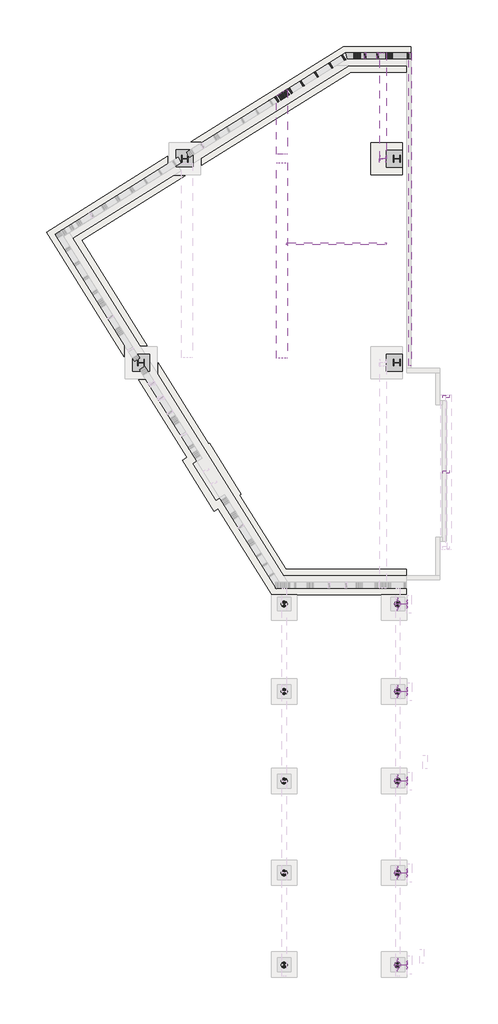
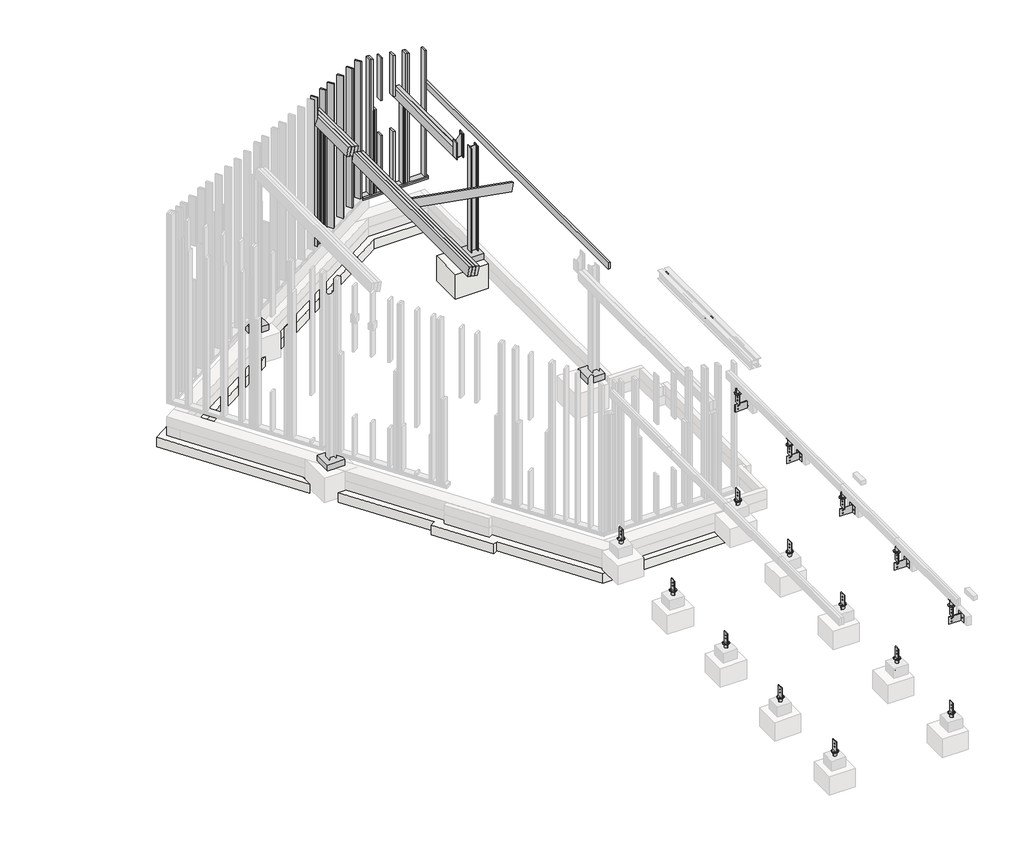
# One storey, part 4 of 4: 31 columns, 20 proxies, 9 beams, 5 fasteners, 2 slabs.
"""IFC4 building model written with IfcOpenShell, lengths in millimetres."""

from ifc_helpers import new_model, si_unit, point, frame, frame_2d, origin, place, context, project, spatial, polyline, circle_curve, ellipse_curve, trimmed, segment, composite_curve, outline, extrude, faceted_brep, transform, mapped, element, save
from ifc_brep_helpers import plane_surface, revolved_surface, advanced_brep
from components import beam_38x140_8ceb008d, beam_50x150_62dd1690, beam_50x225_d8450399, chs_circular_hollow_sections_chs60_3x3_2_165b7c51, canopy_column_connection_fin_plate_canopy_column_connection_61bcdf36, canopy_column_foot_canopy_column_foot_2fd377a7, canopy_column_head_connection_canopy_column_head_connection_66bd8aa7, canopy_column_head_connection_canopy_column_head_connection_2c35da79, column_57cc7a02, column_027ce092, column_138edc97, column_52efbaac, ukc152x152x37_75c2c72e, column_base_plate_4_hole_ed_15mm_62b327aa, m_anchor_rod_with_anchor_plate_m_anchor_rod_with_anchor_bff3a3cc, slab_600_wide_x_225_thick_600_wide_x_225_thick_d5cd6888

model = new_model("IFC4")

# Units and contexts
model_context = context("Model", 3, world=origin())
ifc_project = project(units=[si_unit("LENGTHUNIT", "METRE", prefix="MILLI")], contexts=[model_context])

# Site, building, storey
site = spatial("IfcSite", under=ifc_project)
building = spatial("IfcBuilding", under=site)
storey = spatial("IfcBuildingStorey", under=building, Name="Ground Floor Plan Showing Foundations", Elevation=-93.0)

# Beams
placement = place(None, origin())
element("IfcBeam", 1, ObjectType="Graded Timber - 2No : 2 x 75x225", at=placement, inside=storey, context=model_context, shape_type="SweptSolid", body=[
    extrude(outline(polyline([(-29366.9371106, 15857.9564696), (-29441.9371106, 15857.9564696), (-29441.9371106, 18347.3350736), (-29366.9371106, 18347.3350736), (-29366.9371106, 15857.9564696)])), frame((0.0, 0.0, 2427.0), z_axis=(0.0, 0.0, 1.0), x_axis=(1.0, 0.0, 0.0)), (0.0, 0.0, 1.0), 220.0),
    extrude(outline(polyline([(-29441.9371106, 15857.9564696), (-29516.9371106, 15857.9564696), (-29516.9371106, 18347.3350736), (-29441.9371106, 18347.3350736), (-29441.9371106, 15857.9564696)])), frame((0.0, 0.0, 2427.0), z_axis=(0.0, 0.0, 1.0), x_axis=(1.0, 0.0, 0.0)), (0.0, 0.0, 1.0), 220.0),
])
element("IfcBeam", 2, ObjectType="Graded Timber - 3No : 3 x 75x225", at=placement, inside=storey, context=model_context, shape_type="Brep", body=[
    faceted_brep([(-31761.2878822, 15964.4230908, 3439.3250767), (-31835.1484637, 15964.4230908, 3452.34869), (-31873.3510628, 15964.4230908, 3235.6909843), (-31799.4904813, 15964.4230908, 3222.667371), (-31761.2878822, 17453.1494248, 3439.3250767), (-31835.1484637, 17406.9962111, 3452.34869), (-31873.3510628, 17383.1245778, 3235.6909843), (-31799.4904813, 17429.2777915, 3222.667371)], [[[0, 1, 2, 3]], [[1, 0, 4, 5]], [[2, 1, 5, 6]], [[3, 2, 6, 7]], [[0, 3, 7, 4]], [[5, 4, 7, 6]]]),
    faceted_brep([(-31721.2674157, 17478.1569878, 3432.2683887), (-31721.2674157, 17478.1569878, 3234.3846346), (-31725.6298999, 17475.4310052, 3209.6437577), (-31799.4904813, 17429.2777915, 3222.667371), (-31761.2878822, 17453.1494248, 3439.3250767), (-31687.4273008, 15964.4230908, 3426.3014634), (-31761.2878822, 15964.4230908, 3439.3250767), (-31799.4904813, 15964.4230908, 3222.667371), (-31725.6298999, 15964.4230908, 3209.6437577), (-31687.4273008, 17478.1569878, 3426.3014634)], [[[0, 1, 2, 3, 4]], [[5, 6, 7, 8]], [[6, 5, 9, 0, 4]], [[7, 6, 4, 3]], [[8, 7, 3, 2]], [[5, 8, 2, 1, 9]], [[9, 1, 0]]]),
    faceted_brep([(-31909.0090452, 17360.8429974, 3465.3723033), (-31835.1484637, 17406.9962111, 3452.34869), (-31873.3510628, 17383.1245778, 3235.6909843), (-31947.2116443, 17336.971364, 3248.7145977), (-31835.1484637, 15964.4230908, 3452.34869), (-31909.0090452, 15964.4230908, 3465.3723033), (-31947.2116443, 15964.4230908, 3248.7145977), (-31873.3510628, 15964.4230908, 3235.6909843)], [[[0, 1, 2, 3]], [[4, 5, 6, 7]], [[5, 4, 1, 0]], [[6, 5, 0, 3]], [[7, 6, 3, 2]], [[4, 7, 2, 1]]]),
])
element("IfcBeam", 3, ObjectType="Graded Timber - 3No : 3 x 75x225", at=placement, inside=storey, context=model_context, shape_type="SweptSolid", body=[
    extrude(outline(polyline([(37.5, -1e-07), (-37.5, 0.0), (-37.5, 4599.1047755), (37.5, 4599.1047755), (37.5, -1e-07)])), frame((-31836.423552, 11155.3175759, 3229.1796649), z_axis=(0.17364817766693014, 3.480266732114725e-06, 0.9848077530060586), x_axis=(0.9848077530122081, -6.136649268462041e-07, -0.1736481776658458)), (0.0, 0.0, 1.0), 220.0),
    extrude(outline(polyline([(37.5, 0.0), (-37.5000001, 0.0), (-37.5000001, 4599.1047756), (37.5, 4599.1047755), (37.5, 0.0)])), frame((-31762.5629705, 11155.3175298, 3216.1560516), z_axis=(0.17364817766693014, 3.480266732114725e-06, 0.9848077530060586), x_axis=(0.9848077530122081, -6.136649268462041e-07, -0.1736481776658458)), (0.0, 0.0, 1.0), 220.0),
    extrude(outline(polyline([(37.5000001, 0.0), (-37.5, 0.0), (-37.5, 4599.1047755), (37.5, 4599.1047755), (37.5000001, 0.0)])), frame((-31910.2841335, 11155.3176219, 3242.2032782), z_axis=(0.17364817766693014, 3.480266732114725e-06, 0.9848077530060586), x_axis=(0.9848077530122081, -6.136649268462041e-07, -0.1736481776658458)), (0.0, 0.0, 1.0), 220.0),
])
element("IfcBeam", 4, ObjectType="Graded Timber : 38x140", at=placement, inside=storey, context=model_context, shape_type="Brep", body=[
    faceted_brep([(-28782.1889154, 18207.3350736, 280.0), (-28782.1889154, 18347.3350736, 280.0), (-28782.1889154, 18347.3350736, 318.0), (-28782.1889154, 18207.3350736, 318.0), (-30330.295994, 18347.3350736, 280.0), (-30290.1460992, 18207.3350736, 280.0), (-30330.295994, 18347.3350736, 318.0), (-30290.1460992, 18207.3350736, 318.0)], [[[0, 1, 2, 3]], [[4, 1, 0, 5]], [[6, 2, 1, 4]], [[7, 3, 2, 6]], [[5, 0, 3, 7]], [[5, 7, 6, 4]]]),
])
beam_38x140_shape = beam_38x140_8ceb008d(model_context)
element("IfcBeam", 5, ObjectType="Graded Timber : 38x140", at=placement, inside=storey, context=model_context, shape_type="MappedRepresentation", body=[
    mapped(beam_38x140_shape, transform((-29602.0921398, 18277.3350736, 261.0), x_axis=(-1.0000000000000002, 0.0, 0.0), y_axis=(0.0, 0.0, -1.0000000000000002), z_axis=(0.0, -1.0000000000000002, 0.0))),
])
beam_50x150_shape = beam_50x150_62dd1690(model_context)
element("IfcBeam", 6, ObjectType="Graded Timber : 50x150", at=placement, inside=storey, context=model_context, shape_type="MappedRepresentation", body=[
    mapped(beam_50x150_shape, transform((-28801.9371106, 13453.6021184, 2527.4), x_axis=(0.0, -1.0, 0.0), y_axis=(1.0, 0.0, 0.0), z_axis=(0.0, 0.0, 1.0))),
])
beam_50x225_shape = beam_50x225_d8450399(model_context)
element("IfcBeam", 7, ObjectType="Graded Timber : 50x225", at=placement, inside=storey, context=model_context, shape_type="MappedRepresentation", body=[
    mapped(beam_50x225_shape, transform((-30538.8351923, 13852.6972445, 3111.8205774), x_axis=(0.9848129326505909, 0.0, -0.17361879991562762), y_axis=(0.0, 1.0, 0.0), z_axis=(0.17361879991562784, 0.0, 0.9848129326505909))),
])
chs_circular_hollow_sections_chs60_3x3_2_shape = chs_circular_hollow_sections_chs60_3x3_2_165b7c51(model_context)
element("IfcBeam", 8, ObjectType="CHS-Circular Hollow Sections : CHS60.3x3.2", at=placement, inside=storey, context=model_context, shape_type="MappedRepresentation", body=[
    mapped(chs_circular_hollow_sections_chs60_3x3_2_shape, transform((-27953.1871107, 8474.5605669, 2470.0), x_axis=(-1.0, 0.0, 0.0), y_axis=(0.0, -1.0, 0.0), z_axis=(0.0, 0.0, 1.0))),
])
element("IfcBeam", 9, ObjectType="CHS-Circular Hollow Sections : CHS60.3x3.2", at=placement, inside=storey, context=model_context, shape_type="MappedRepresentation", body=[
    mapped(chs_circular_hollow_sections_chs60_3x3_2_shape, transform((-27953.1871107, 10254.5605669, 2470.0), x_axis=(-1.0, 0.0, 0.0), y_axis=(0.0, -1.0, 0.0), z_axis=(0.0, 0.0, 1.0))),
])

# Proxies
element("IfcBuildingElementProxy", 10, Name="Canopy Column Connection Fin Plate : Canopy Column Connection Fin Plate", ObjectType="Canopy Column Connection Fin Plate : Canopy Column Connection Fin Plate", at=placement, inside=storey, context=model_context, shape_type="SweptSolid", body=[
    extrude(outline(polyline([(-3029.6238045, 2682.0), (-3029.6238045, 2507.0), (-3229.6238045, 2507.0), (-3229.6238045, 2682.0), (-3029.6238045, 2682.0)]), holes=[composite_curve([segment(trimmed(circle_curve(frame_2d((-3079.6238045, 2594.5)), 8.9998703), [point((-3079.6238045, 2585.5001297))], [point((-3079.6238045, 2603.4998703))], True, "CARTESIAN"), True, "CONTINUOUS"), segment(trimmed(circle_curve(frame_2d((-3079.6238045, 2594.5)), 8.9998703), [point((-3079.6238045, 2603.4998703))], [point((-3079.6238045, 2585.5001297))], True, "CARTESIAN"), True, "CONTINUOUS")], self_intersect=False), composite_curve([segment(trimmed(circle_curve(frame_2d((-3179.6238045, 2594.5)), 8.9998703), [point((-3179.6238045, 2585.5001297))], [point((-3179.6238045, 2603.4998703))], True, "CARTESIAN"), True, "CONTINUOUS"), segment(trimmed(circle_curve(frame_2d((-3179.6238045, 2594.5)), 8.9998703), [point((-3179.6238045, 2603.4998703))], [point((-3179.6238045, 2585.5001297))], True, "CARTESIAN"), True, "CONTINUOUS")], self_intersect=False)]), frame((-28872.9341292, 0.0, 0.0), z_axis=(1.0, 0.0, 0.0), x_axis=(0.0, 1.0, 0.0)), (0.0, 0.0, 1.0), 10.0),
    extrude(outline(polyline([(2507.0, -28872.9341292), (2682.0, -28872.9341292), (2682.0, -29156.9341292), (2507.0, -29156.9341292), (2507.0, -28872.9341292)]), holes=[composite_curve([segment(trimmed(circle_curve(frame_2d((2632.0, -29091.9341292)), 8.9998703), [point((2623.0001297, -29091.9341292))], [point((2640.9998703, -29091.9341292))], True, "CARTESIAN"), True, "CONTINUOUS"), segment(trimmed(circle_curve(frame_2d((2632.0, -29091.9341292)), 8.9998703), [point((2640.9998703, -29091.9341292))], [point((2623.0001297, -29091.9341292))], True, "CARTESIAN"), True, "CONTINUOUS")], self_intersect=False), composite_curve([segment(trimmed(circle_curve(frame_2d((2557.0, -29091.9341292)), 8.9998703), [point((2548.0001297, -29091.9341292))], [point((2565.9998703, -29091.9341292))], True, "CARTESIAN"), True, "CONTINUOUS"), segment(trimmed(circle_curve(frame_2d((2557.0, -29091.9341292)), 8.9998703), [point((2565.9998703, -29091.9341292))], [point((2548.0001297, -29091.9341292))], True, "CARTESIAN"), True, "CONTINUOUS")], self_intersect=False)]), frame((0.0, -3135.6238045, 0.0), z_axis=(0.0, 1.0, 0.0), x_axis=(0.0, 0.0, 1.0)), (0.0, 0.0, 1.0), 12.0),
])
canopy_column_connection_fin_plate_canopy_column_connection_shape = canopy_column_connection_fin_plate_canopy_column_connection_61bcdf36(model_context)
element("IfcBuildingElementProxy", 11, Name="Canopy Column Connection Fin Plate : Canopy Column Connection Fin Plate", ObjectType="Canopy Column Connection Fin Plate : Canopy Column Connection Fin Plate", at=placement, inside=storey, context=model_context, shape_type="MappedRepresentation", body=[
    mapped(canopy_column_connection_fin_plate_canopy_column_connection_shape, transform((-29007.1341292, -963.6740127, 2507.0), x_axis=(0.0, -1.0, 0.0), y_axis=(1.0, 0.0, 0.0), z_axis=(0.0, 0.0, 1.0))),
])
element("IfcBuildingElementProxy", 12, Name="Canopy Column Connection Fin Plate : Canopy Column Connection Fin Plate", ObjectType="Canopy Column Connection Fin Plate : Canopy Column Connection Fin Plate", at=placement, inside=storey, context=model_context, shape_type="MappedRepresentation", body=[
    mapped(canopy_column_connection_fin_plate_canopy_column_connection_shape, transform((-29007.1341292, 1196.80418, 2507.0), x_axis=(0.0, -1.0, 0.0), y_axis=(1.0, 0.0, 0.0), z_axis=(0.0, 0.0, 1.0))),
])
element("IfcBuildingElementProxy", 13, Name="Canopy Column Connection Fin Plate : Canopy Column Connection Fin Plate", ObjectType="Canopy Column Connection Fin Plate : Canopy Column Connection Fin Plate", at=placement, inside=storey, context=model_context, shape_type="MappedRepresentation", body=[
    mapped(canopy_column_connection_fin_plate_canopy_column_connection_shape, transform((-29007.1341292, 3304.2368568, 2507.0), x_axis=(0.0, -1.0, 0.0), y_axis=(1.0, 0.0, 0.0), z_axis=(0.0, 0.0, 1.0))),
])
element("IfcBuildingElementProxy", 14, Name="Canopy Column Connection Fin Plate : Canopy Column Connection Fin Plate", ObjectType="Canopy Column Connection Fin Plate : Canopy Column Connection Fin Plate", at=placement, inside=storey, context=model_context, shape_type="MappedRepresentation", body=[
    mapped(canopy_column_connection_fin_plate_canopy_column_connection_shape, transform((-29007.1341292, 5364.4959246, 2507.0), x_axis=(0.0, -1.0, 0.0), y_axis=(1.0, 0.0, 0.0), z_axis=(0.0, 0.0, 1.0))),
])
canopy_column_foot_canopy_column_foot_shape = canopy_column_foot_canopy_column_foot_2fd377a7(model_context)
element("IfcBuildingElementProxy", 15, Name="Canopy Column Foot : Canopy Column Foot", ObjectType="Canopy Column Foot : Canopy Column Foot", at=placement, inside=storey, context=model_context, shape_type="MappedRepresentation", body=[
    mapped(canopy_column_foot_canopy_column_foot_shape, transform((-29091.9371107, -3129.6238045, 7.0), x_axis=(1.0, 0.0, 0.0), y_axis=(0.0, 1.0, 0.0), z_axis=(0.0, 0.0, 1.0))),
])
element("IfcBuildingElementProxy", 16, Name="Canopy Column Foot : Canopy Column Foot", ObjectType="Canopy Column Foot : Canopy Column Foot", at=placement, inside=storey, context=model_context, shape_type="MappedRepresentation", body=[
    mapped(canopy_column_foot_canopy_column_foot_shape, transform((-29091.9371107, -963.6740127, 7.0), x_axis=(1.0, 0.0, 0.0), y_axis=(0.0, 1.0, 0.0), z_axis=(0.0, 0.0, 1.0))),
])
element("IfcBuildingElementProxy", 17, Name="Canopy Column Foot : Canopy Column Foot", ObjectType="Canopy Column Foot : Canopy Column Foot", at=placement, inside=storey, context=model_context, shape_type="MappedRepresentation", body=[
    mapped(canopy_column_foot_canopy_column_foot_shape, transform((-29091.9371107, 1196.80418, 7.0), x_axis=(1.0, 0.0, 0.0), y_axis=(0.0, 1.0, 0.0), z_axis=(0.0, 0.0, 1.0))),
])
element("IfcBuildingElementProxy", 18, Name="Canopy Column Foot : Canopy Column Foot", ObjectType="Canopy Column Foot : Canopy Column Foot", at=placement, inside=storey, context=model_context, shape_type="MappedRepresentation", body=[
    mapped(canopy_column_foot_canopy_column_foot_shape, transform((-29091.9371107, 3304.2368568, 7.0), x_axis=(1.0, 0.0, 0.0), y_axis=(0.0, 1.0, 0.0), z_axis=(0.0, 0.0, 1.0))),
])
element("IfcBuildingElementProxy", 19, Name="Canopy Column Foot : Canopy Column Foot", ObjectType="Canopy Column Foot : Canopy Column Foot", at=placement, inside=storey, context=model_context, shape_type="MappedRepresentation", body=[
    mapped(canopy_column_foot_canopy_column_foot_shape, transform((-29091.9371107, 5364.4959246, 7.0), x_axis=(1.0, 0.0, 0.0), y_axis=(0.0, 1.0, 0.0), z_axis=(0.0, 0.0, 1.0))),
])
element("IfcBuildingElementProxy", 20, Name="Canopy Column Foot : Canopy Column Foot", ObjectType="Canopy Column Foot : Canopy Column Foot", at=placement, inside=storey, context=model_context, shape_type="MappedRepresentation", body=[
    mapped(canopy_column_foot_canopy_column_foot_shape, transform((-31769.9559584, -3129.6238045, 7.0), x_axis=(1.0, 0.0, 0.0), y_axis=(0.0, 1.0, 0.0), z_axis=(0.0, 0.0, 1.0))),
])
element("IfcBuildingElementProxy", 21, Name="Canopy Column Foot : Canopy Column Foot", ObjectType="Canopy Column Foot : Canopy Column Foot", at=placement, inside=storey, context=model_context, shape_type="MappedRepresentation", body=[
    mapped(canopy_column_foot_canopy_column_foot_shape, transform((-31769.9559584, -963.6740127, 7.0), x_axis=(1.0, 0.0, 0.0), y_axis=(0.0, 1.0, 0.0), z_axis=(0.0, 0.0, 1.0))),
])
element("IfcBuildingElementProxy", 22, Name="Canopy Column Foot : Canopy Column Foot", ObjectType="Canopy Column Foot : Canopy Column Foot", at=placement, inside=storey, context=model_context, shape_type="MappedRepresentation", body=[
    mapped(canopy_column_foot_canopy_column_foot_shape, transform((-31769.9559584, 1196.80418, 7.0), x_axis=(1.0, 0.0, 0.0), y_axis=(0.0, 1.0, 0.0), z_axis=(0.0, 0.0, 1.0))),
])
element("IfcBuildingElementProxy", 23, Name="Canopy Column Foot : Canopy Column Foot", ObjectType="Canopy Column Foot : Canopy Column Foot", at=placement, inside=storey, context=model_context, shape_type="MappedRepresentation", body=[
    mapped(canopy_column_foot_canopy_column_foot_shape, transform((-31769.9559584, 3304.2368568, 7.0), x_axis=(1.0, 0.0, 0.0), y_axis=(0.0, 1.0, 0.0), z_axis=(0.0, 0.0, 1.0))),
])
element("IfcBuildingElementProxy", 24, Name="Canopy Column Foot : Canopy Column Foot", ObjectType="Canopy Column Foot : Canopy Column Foot", at=placement, inside=storey, context=model_context, shape_type="MappedRepresentation", body=[
    mapped(canopy_column_foot_canopy_column_foot_shape, transform((-31769.9559584, 5364.4959246, 7.0), x_axis=(1.0, 0.0, 0.0), y_axis=(0.0, 1.0, 0.0), z_axis=(0.0, 0.0, 1.0))),
])
canopy_column_head_connection_canopy_column_head_connection_shape = canopy_column_head_connection_canopy_column_head_connection_66bd8aa7(model_context)
element("IfcBuildingElementProxy", 25, Name="Canopy Column Head Connection : Canopy Column Head Connection", ObjectType="Canopy Column Head Connection : Canopy Column Head Connection", at=placement, inside=storey, context=model_context, shape_type="MappedRepresentation", body=[
    mapped(canopy_column_head_connection_canopy_column_head_connection_shape, transform((-29092.1341292, -3129.6238045, 2942.0), x_axis=(1.0, 0.0, 0.0), y_axis=(0.0, 1.0, 0.0), z_axis=(0.0, 0.0, 1.0))),
])
element("IfcBuildingElementProxy", 26, Name="Canopy Column Head Connection : Canopy Column Head Connection", ObjectType="Canopy Column Head Connection : Canopy Column Head Connection", at=placement, inside=storey, context=model_context, shape_type="MappedRepresentation", body=[
    mapped(canopy_column_head_connection_canopy_column_head_connection_shape, transform((-29091.9371107, -963.6740127, 2942.0), x_axis=(1.0, 0.0, 0.0), y_axis=(0.0, 1.0, 0.0), z_axis=(0.0, 0.0, 1.0))),
])
element("IfcBuildingElementProxy", 27, Name="Canopy Column Head Connection : Canopy Column Head Connection", ObjectType="Canopy Column Head Connection : Canopy Column Head Connection", at=placement, inside=storey, context=model_context, shape_type="MappedRepresentation", body=[
    mapped(canopy_column_head_connection_canopy_column_head_connection_shape, transform((-29091.9371107, 1196.80418, 2942.0), x_axis=(1.0, 0.0, 0.0), y_axis=(0.0, 1.0, 0.0), z_axis=(0.0, 0.0, 1.0))),
])
element("IfcBuildingElementProxy", 28, Name="Canopy Column Head Connection : Canopy Column Head Connection", ObjectType="Canopy Column Head Connection : Canopy Column Head Connection", at=placement, inside=storey, context=model_context, shape_type="MappedRepresentation", body=[
    mapped(canopy_column_head_connection_canopy_column_head_connection_shape, transform((-29091.9371107, 3304.2368568, 2942.0), x_axis=(1.0, 0.0, 0.0), y_axis=(0.0, 1.0, 0.0), z_axis=(0.0, 0.0, 1.0))),
])
canopy_column_head_connection_canopy_column_head_connection_2_shape = canopy_column_head_connection_canopy_column_head_connection_2c35da79(model_context)
element("IfcBuildingElementProxy", 29, Name="Canopy Column Head Connection : Canopy Column Head Connection", ObjectType="Canopy Column Head Connection : Canopy Column Head Connection", at=placement, inside=storey, context=model_context, shape_type="MappedRepresentation", body=[
    mapped(canopy_column_head_connection_canopy_column_head_connection_2_shape, transform((-29091.9371107, 5364.4959246, 2942.0), x_axis=(1.0, 0.0, 0.0), y_axis=(0.0, 1.0, 0.0), z_axis=(0.0, 0.0, 1.0))),
])

# Columns
column_shape = column_57cc7a02(model_context)
element("IfcColumn", 30, ObjectType="Column Encasement : Column Encasement", at=placement, inside=storey, context=model_context, shape_type="MappedRepresentation", body=[
    mapped(column_shape, transform((5.0, 0.0, 0.0), x_axis=(1.0, 0.0, 0.0), y_axis=(0.0, 1.0, 0.0), z_axis=(0.0, 0.0, 1.0))),
])
column_2_shape = column_027ce092(model_context)
element("IfcColumn", 31, ObjectType="Column Encasement1 : Column Encasement", at=placement, inside=storey, context=model_context, shape_type="MappedRepresentation", body=[
    mapped(column_2_shape, transform((120.0, 0.0, 0.0), x_axis=(1.0, 0.0, 0.0), y_axis=(0.0, 1.0, 0.0), z_axis=(0.0, 0.0, 1.0))),
])
column_3_shape = column_138edc97(model_context)
element("IfcColumn", 32, ObjectType="Column Encasement2 : Column Encasement", at=placement, inside=storey, context=model_context, shape_type="MappedRepresentation", body=[
    mapped(column_3_shape, transform((0.0, 0.0, 0.0), x_axis=(1.0, 0.0, 0.0), y_axis=(0.0, 1.0, 0.0), z_axis=(0.0, 0.0, 1.0))),
])
column_4_shape = column_52efbaac(model_context)
element("IfcColumn", 33, ObjectType="Column Encasement3 : Column Encasement", at=placement, inside=storey, context=model_context, shape_type="MappedRepresentation", body=[
    mapped(column_4_shape, transform((0.0, 0.0, 0.0), x_axis=(1.0, 0.0, 0.0), y_axis=(0.0, 1.0, 0.0), z_axis=(0.0, 0.0, 1.0))),
])
element("IfcColumn", 34, ObjectType="Timber : 38x140", at=placement, inside=storey, context=model_context, shape_type="SweptSolid", body=[
    extrude(outline(polyline([(3458.9037382, -29295.5411236), (318.0, -29295.5411236), (318.0, -29257.5411236), (3452.2033129, -29257.5411236), (3458.9037382, -29295.5411236)])), frame((0.0, 18207.3350736, 0.0), z_axis=(0.0, 1.0, 0.0), x_axis=(0.0, 0.0, 1.0)), (0.0, 0.0, 1.0), 140.0),
])
element("IfcColumn", 35, ObjectType="Timber : 38x140", at=placement, inside=storey, context=model_context, shape_type="SweptSolid", body=[
    extrude(outline(polyline([(-29295.5411236, 18347.3350736), (-29295.5411236, 18207.3350736), (-29333.5411236, 18207.3350736), (-29333.5411236, 18347.3350736), (-29295.5411236, 18347.3350736)])), frame((0.0, 0.0, 318.0), z_axis=(0.0, 0.0, 1.0), x_axis=(1.0, 0.0, 0.0)), (0.0, 0.0, 1.0), 2024.0),
])
element("IfcColumn", 36, ObjectType="Timber : 38x140", at=placement, inside=storey, context=model_context, shape_type="SweptSolid", body=[
    extrude(outline(polyline([(-29333.5411236, 18347.3350736), (-29333.5411236, 18207.3350736), (-29371.5411236, 18207.3350736), (-29371.5411236, 18347.3350736), (-29333.5411236, 18347.3350736)])), frame((0.0, 0.0, 318.0), z_axis=(0.0, 0.0, 1.0), x_axis=(1.0, 0.0, 0.0)), (0.0, 0.0, 1.0), 2024.0),
])
element("IfcColumn", 37, ObjectType="Timber : 38x140", at=placement, inside=storey, context=model_context, shape_type="SweptSolid", body=[
    extrude(outline(polyline([(-29971.5411236, 18347.3350736), (-29971.5411236, 18207.3350736), (-30009.5411236, 18207.3350736), (-30009.5411236, 18347.3350736), (-29971.5411236, 18347.3350736)])), frame((0.0, 0.0, 318.0), z_axis=(0.0, 0.0, 1.0), x_axis=(1.0, 0.0, 0.0)), (0.0, 0.0, 1.0), 2024.0),
])
element("IfcColumn", 38, ObjectType="Timber : 38x140", at=placement, inside=storey, context=model_context, shape_type="SweptSolid", body=[
    extrude(outline(polyline([(-30009.5411236, 18347.3350736), (-30009.5411236, 18207.3350736), (-30047.5411236, 18207.3350736), (-30047.5411236, 18347.3350736), (-30009.5411236, 18347.3350736)])), frame((0.0, 0.0, 318.0), z_axis=(0.0, 0.0, 1.0), x_axis=(1.0, 0.0, 0.0)), (0.0, 0.0, 1.0), 2024.0),
])
element("IfcColumn", 39, ObjectType="Timber : 38x140", at=placement, inside=storey, context=model_context, shape_type="SweptSolid", body=[
    extrude(outline(polyline([(3598.2020529, -30085.5411236), (318.0, -30085.5411236), (318.0, -30047.5411236), (3591.5016277, -30047.5411236), (3598.2020529, -30085.5411236)])), frame((0.0, 18207.3350736, 0.0), z_axis=(0.0, 1.0, 0.0), x_axis=(0.0, 0.0, 1.0)), (0.0, 0.0, 1.0), 140.0),
])
element("IfcColumn", 40, ObjectType="Timber : 38x140", at=placement, inside=storey, context=model_context, shape_type="SweptSolid", body=[
    extrude(outline(polyline([(3382.9766327, -28864.9371106), (318.0, -28864.9371106), (318.0, -28826.9371106), (3376.2762074, -28826.9371106), (3382.9766327, -28864.9371106)])), frame((0.0, 18207.3350736, 0.0), z_axis=(0.0, 1.0, 0.0), x_axis=(0.0, 0.0, 1.0)), (0.0, 0.0, 1.0), 140.0),
])
element("IfcColumn", 41, ObjectType="Timber : 38x140", at=placement, inside=storey, context=model_context, shape_type="Brep", body=[
    faceted_brep([(-31725.5410492, 17475.497923, 318.0), (-31651.3530343, 17356.7707634, 318.0), (-31683.5789776, 17336.6340165, 318.0), (-31757.7669925, 17455.3611761, 318.0), (-31651.3530343, 17356.7707634, 3123.3739652), (-31725.5410492, 17475.497923, 3123.3738446), (-31683.5789776, 17336.6340165, 3129.0562481), (-31757.7669925, 17455.3611761, 3129.0561275)], [[[0, 1, 2, 3]], [[4, 1, 0, 5]], [[6, 2, 1, 4]], [[7, 3, 2, 6]], [[5, 0, 3, 7]], [[4, 5, 7, 6]]]),
])
element("IfcColumn", 42, ObjectType="Timber : 38x140", at=placement, inside=storey, context=model_context, shape_type="Brep", body=[
    faceted_brep([(-31370.6314744, 17697.2668202, 318.0), (-31296.4434595, 17578.5396606, 318.0), (-31328.6694028, 17558.4029137, 318.0), (-31402.8574177, 17677.1300733, 318.0), (-31296.4434595, 17578.5396606, 3817.6783426), (-31370.6314744, 17697.2668202, 3817.678222), (-31328.6694028, 17558.4029137, 3823.3606255), (-31402.8574177, 17677.1300733, 3823.3605049)], [[[0, 1, 2, 3]], [[4, 1, 0, 5]], [[6, 2, 1, 4]], [[7, 3, 2, 6]], [[5, 0, 3, 7]], [[4, 5, 7, 6]]]),
])
element("IfcColumn", 43, ObjectType="Timber : 38x140", at=placement, inside=storey, context=model_context, shape_type="Brep", body=[
    faceted_brep([(-31031.4110182, 17909.2325772, 318.0), (-30957.2230033, 17790.5054175, 318.0), (-30989.4489466, 17770.3686706, 318.0), (-31063.6369616, 17889.0958303, 318.0), (-30957.2230033, 17790.5054175, 3757.8648385), (-31031.4110182, 17909.2325772, 3757.8647179), (-30989.4489466, 17770.3686706, 3763.5471214), (-31063.6369616, 17889.0958303, 3763.5470008)], [[[0, 1, 2, 3]], [[4, 1, 0, 5]], [[6, 2, 1, 4]], [[7, 3, 2, 6]], [[5, 0, 3, 7]], [[4, 5, 7, 6]]]),
])
element("IfcColumn", 44, ObjectType="Timber : 38x140", at=placement, inside=storey, context=model_context, shape_type="Brep", body=[
    faceted_brep([(-30692.1905621, 18121.1983341, 318.0), (-30618.0025471, 18002.4711744, 318.0), (-30650.2284905, 17982.3344275, 318.0), (-30724.4165054, 18101.0615872, 318.0), (-30618.0025471, 18002.4711744, 3698.0513344), (-30692.1905621, 18121.1983341, 3698.0512138), (-30650.2284905, 17982.3344275, 3703.7336173), (-30724.4165054, 18101.0615872, 3703.7334967)], [[[0, 1, 2, 3]], [[4, 1, 0, 5]], [[6, 2, 1, 4]], [[7, 3, 2, 6]], [[5, 0, 3, 7]], [[4, 5, 7, 6]]]),
])
element("IfcColumn", 45, ObjectType="Timber : 38x140", at=placement, inside=storey, context=model_context, shape_type="Brep", body=[
    faceted_brep([(-30392.9105568, 18308.2068464, 318.0), (-30318.7225419, 18189.4796867, 318.0), (-30350.9484852, 18169.3429398, 318.0), (-30425.1365001, 18288.0700995, 318.0), (-30318.7225419, 18189.4796867, 3645.2803841), (-30392.9105568, 18308.2068464, 3645.2802635), (-30350.9484852, 18169.3429398, 3650.962667), (-30425.1365001, 18288.0700995, 3650.9625464)], [[[0, 1, 2, 3]], [[4, 1, 0, 5]], [[6, 2, 1, 4]], [[7, 3, 2, 6]], [[5, 0, 3, 7]], [[4, 5, 7, 6]]]),
])
element("IfcColumn", 46, ObjectType="Timber : 38x140", at=placement, inside=storey, context=model_context, shape_type="SweptSolid", body=[
    extrude(outline(polyline([(3509.4383432, -29582.1371106), (2517.0, -29582.1371106), (2517.0, -29544.1371106), (3502.737918, -29544.1371106), (3509.4383432, -29582.1371106)])), frame((0.0, 18207.3350736, 0.0), z_axis=(0.0, 1.0, 0.0), x_axis=(0.0, 0.0, 1.0)), (0.0, 0.0, 1.0), 140.0),
])
element("IfcColumn", 47, ObjectType="Timber : 38x140", at=placement, inside=storey, context=model_context, shape_type="Brep", body=[
    faceted_brep([(-31789.9931618, 17435.2247908, 318.0), (-31715.8051468, 17316.4976311, 318.0), (-31748.0310902, 17296.3608842, 318.0), (-31822.2191051, 17415.0880438, 318.0), (-31715.8051468, 17316.4976311, 3134.738531), (-31789.9931618, 17435.2247908, 3134.7384104), (-31748.0310902, 17296.3608842, 3140.4208139), (-31822.2191051, 17415.0880438, 3140.4206933)], [[[0, 1, 2, 3]], [[4, 1, 0, 5]], [[6, 2, 1, 4]], [[7, 3, 2, 6]], [[5, 0, 3, 7]], [[4, 5, 7, 6]]]),
])
element("IfcColumn", 48, ObjectType="Timber : 38x140", at=placement, inside=storey, context=model_context, shape_type="Brep", body=[
    faceted_brep([(-31757.7671055, 17455.3613569, 318.0), (-31683.5790906, 17336.6341972, 318.0), (-31715.8050339, 17316.4974503, 318.0), (-31789.9930488, 17435.22461, 318.0), (-31683.5790906, 17336.6341972, 3129.0562481), (-31757.7671055, 17455.3613569, 3129.0561275), (-31715.8050339, 17316.4974503, 3134.738531), (-31789.9930488, 17435.22461, 3134.7384104)], [[[0, 1, 2, 3]], [[4, 1, 0, 5]], [[6, 2, 1, 4]], [[7, 3, 2, 6]], [[5, 0, 3, 7]], [[4, 5, 7, 6]]]),
])
element("IfcColumn", 49, ObjectType="Timber : 38x140", at=placement, inside=storey, context=model_context, shape_type="Brep", body=[
    faceted_brep([(-31964.2672713, 17326.3267465, 318.0), (-31890.0792564, 17207.5995868, 318.0), (-31922.3051997, 17187.4628399, 318.0), (-31996.4932146, 17306.1899996, 318.0), (-31890.0792564, 17207.5995868, 3922.3519749), (-31964.2672713, 17326.3267465, 3922.3518543), (-31922.3051997, 17187.4628399, 3928.0342578), (-31996.4932146, 17306.1899996, 3928.0341372)], [[[0, 1, 2, 3]], [[4, 1, 0, 5]], [[6, 2, 1, 4]], [[7, 3, 2, 6]], [[5, 0, 3, 7]], [[4, 5, 7, 6]]]),
])
element("IfcColumn", 50, ObjectType="Timber : 38x140", at=placement, inside=storey, context=model_context, shape_type="Brep", body=[
    faceted_brep([(-31646.248095, 17525.0446427, 318.0), (-31572.0600801, 17406.3174831, 318.0), (-31604.2860234, 17386.1807362, 318.0), (-31678.4740384, 17504.9078958, 318.0), (-31572.0600801, 17406.3174831, 3866.276815), (-31646.248095, 17525.0446427, 3866.2766944), (-31604.2860234, 17386.1807362, 3871.9590979), (-31678.4740384, 17504.9078958, 3871.9589773)], [[[0, 1, 2, 3]], [[4, 1, 0, 5]], [[6, 2, 1, 4]], [[7, 3, 2, 6]], [[5, 0, 3, 7]], [[4, 5, 7, 6]]]),
])
element("IfcColumn", 51, ObjectType="Timber : 38x140", at=placement, inside=storey, context=model_context, shape_type="SweptSolid", body=[
    extrude(outline(polyline([(3561.2784756, -29876.1371106), (2517.0, -29876.1371106), (2517.0, -29838.1371106), (3554.5780503, -29838.1371106), (3561.2784756, -29876.1371106)])), frame((0.0, 18207.3350736, 0.0), z_axis=(0.0, 1.0, 0.0), x_axis=(0.0, 0.0, 1.0)), (0.0, 0.0, 1.0), 140.0),
])
element("IfcColumn", 52, ObjectType="Timber : 38x140", at=placement, inside=storey, context=model_context, shape_type="SweptSolid", body=[
    extrude(outline(polyline([(3452.2033129, -29257.5411236), (318.0, -29257.5411236), (318.0, -29219.5411236), (3445.5028876, -29219.5411236), (3452.2033129, -29257.5411236)])), frame((0.0, 18207.3350736, 0.0), z_axis=(0.0, 1.0, 0.0), x_axis=(0.0, 0.0, 1.0)), (0.0, 0.0, 1.0), 140.0),
])
element("IfcColumn", 53, ObjectType="Timber : 38x140", at=placement, inside=storey, context=model_context, shape_type="SweptSolid", body=[
    extrude(outline(polyline([(3604.9024782, -30123.5411236), (318.0, -30123.5411236), (318.0, -30085.5411236), (3598.2020529, -30085.5411236), (3604.9024782, -30123.5411236)])), frame((0.0, 18207.3350736, 0.0), z_axis=(0.0, 1.0, 0.0), x_axis=(0.0, 0.0, 1.0)), (0.0, 0.0, 1.0), 140.0),
])
element("IfcColumn", 54, ObjectType="Timber : 38x140", at=placement, inside=storey, context=model_context, shape_type="Brep", body=[
    faceted_brep([(-31822.2185312, 17415.0871254, 318.0), (-31748.0305163, 17296.3599657, 318.0), (-31780.2564596, 17276.2232188, 318.0), (-31854.4444745, 17394.9503785, 318.0), (-31748.0305163, 17296.3599657, 3140.4208139), (-31822.2185312, 17415.0871254, 3140.4206933), (-31780.2564596, 17276.2232188, 3146.1030968), (-31854.4444745, 17394.9503785, 3146.1029762)], [[[0, 1, 2, 3]], [[4, 1, 0, 5]], [[6, 2, 1, 4]], [[7, 3, 2, 6]], [[5, 0, 3, 7]], [[4, 5, 7, 6]]]),
])
element("IfcColumn", 55, ObjectType="Timber : 38x140", at=placement, inside=storey, context=model_context, shape_type="Brep", body=[
    faceted_brep([(-31886.6706438, 17374.8139931, 318.0), (-31812.4826288, 17256.0868334, 318.0), (-31844.7085722, 17235.9500865, 318.0), (-31918.8965871, 17354.6772462, 318.0), (-31812.4826288, 17256.0868334, 3151.7853797), (-31886.6706438, 17374.8139931, 3151.7852591), (-31844.7085722, 17235.9500865, 3157.4676626), (-31918.8965871, 17354.6772462, 3157.467542)], [[[0, 1, 2, 3]], [[4, 1, 0, 5]], [[6, 2, 1, 4]], [[7, 3, 2, 6]], [[5, 0, 3, 7]], [[4, 5, 7, 6]]]),
])
element("IfcColumn", 56, ObjectType="Timber : 38x140", at=placement, inside=storey, context=model_context, shape_type="Brep", body=[
    faceted_brep([(-31854.4445875, 17394.9505592, 318.0), (-31780.2565725, 17276.2233996, 318.0), (-31812.4825159, 17256.0866527, 318.0), (-31886.6705308, 17374.8138123, 318.0), (-31780.2565725, 17276.2233996, 3146.1030968), (-31854.4445875, 17394.9505592, 3146.1029762), (-31812.4825159, 17256.0866527, 3151.7853797), (-31886.6705308, 17374.8138123, 3151.7852591)], [[[0, 1, 2, 3]], [[4, 1, 0, 5]], [[6, 2, 1, 4]], [[7, 3, 2, 6]], [[5, 0, 3, 7]], [[4, 5, 7, 6]]]),
])
element("IfcColumn", 57, ObjectType="Timber : 38x140", at=placement, inside=storey, context=model_context, shape_type="SweptSolid", body=[
    extrude(outline(polyline([(-29544.1371106, 18347.3350736), (-29544.1371106, 18207.3350736), (-29582.1371106, 18207.3350736), (-29582.1371106, 18347.3350736), (-29544.1371106, 18347.3350736)])), frame((0.0, 0.0, 318.0), z_axis=(0.0, 0.0, 1.0), x_axis=(1.0, 0.0, 0.0)), (0.0, 0.0, 1.0), 1348.0),
])
element("IfcColumn", 58, ObjectType="Timber : 38x140", at=placement, inside=storey, context=model_context, shape_type="SweptSolid", body=[
    extrude(outline(polyline([(-29838.1371106, 18347.3350736), (-29838.1371106, 18207.3350736), (-29876.1371106, 18207.3350736), (-29876.1371106, 18347.3350736), (-29838.1371106, 18347.3350736)])), frame((0.0, 0.0, 318.0), z_axis=(0.0, 0.0, 1.0), x_axis=(1.0, 0.0, 0.0)), (0.0, 0.0, 1.0), 1348.0),
])
element("IfcColumn", 59, ObjectType="UKC-UK Columns-Column : UKC152x152x37", at=placement, inside=storey, context=model_context, shape_type="AdvancedBrep", body=[
    advanced_brep(
    [(-29375.6371106, 15777.223117, 3003.9884334), (-29364.1371106, 15777.223117, 3016.6259721), (-29364.1371106, 15931.623117, 3016.6259721), (-29375.6371106, 15931.623117, 3003.9884334), (-29375.6371106, 15866.023117, 3003.9884334), (-29383.2371106, 15858.423117, 2995.6366687), (-29506.8371106, 15858.423117, 2859.8106009), (-29514.4371106, 15866.023117, 2851.4588362), (-29514.4371106, 15931.623117, 2851.4588362), (-29525.9371106, 15931.623117, 2838.8212976), (-29525.9371106, 15777.223117, 2838.8212976), (-29514.4371106, 15777.223117, 2851.4588362), (-29514.4371106, 15842.823117, 2851.4588362), (-29506.8371106, 15850.423117, 2859.8106009), (-29383.2371106, 15850.423117, 2995.6366687), (-29375.6371106, 15842.823117, 3003.9884334), (-29364.1371106, 15777.223117, 2440.0), (-29375.6371106, 15777.223117, 2440.0), (-29375.6371106, 15842.823117, 2440.0), (-29383.2371106, 15850.423117, 2440.0), (-29506.8371106, 15850.423117, 2440.0), (-29514.4371106, 15842.823117, 2440.0), (-29514.4371106, 15777.223117, 2440.0), (-29525.9371106, 15777.223117, 2440.0), (-29525.9371106, 15931.623117, 2440.0), (-29514.4371106, 15931.623117, 2440.0), (-29514.4371106, 15866.023117, 2440.0), (-29506.8371106, 15858.423117, 2440.0), (-29383.2371106, 15858.423117, 2440.0), (-29375.6371106, 15866.023117, 2440.0), (-29375.6371106, 15931.623117, 2440.0), (-29364.1371106, 15931.623117, 2440.0)],
    [
        (0, 1),
        (1, 2),
        (2, 3),
        (3, 4),
        (4, 5, ellipse_curve(frame((-29383.2371106, 15866.023117, 2995.6366687), z_axis=(0.739609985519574, 0.0, -0.6730357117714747), x_axis=(-0.6730357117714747, 0.0, -0.7396099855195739)), 11.29212, 7.6)),
        (5, 6),
        (6, 7, ellipse_curve(frame((-29506.8371106, 15866.023117, 2859.8106009), z_axis=(0.739609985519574, 0.0, -0.6730357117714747), x_axis=(-0.6730357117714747, 0.0, -0.7396099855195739)), 11.29212, 7.6)),
        (7, 8),
        (8, 9),
        (9, 10),
        (10, 11),
        (11, 12),
        (12, 13, ellipse_curve(frame((-29506.8371106, 15842.823117, 2859.8106009), z_axis=(0.739609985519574, 0.0, -0.6730357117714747), x_axis=(-0.6730357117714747, 0.0, -0.7396099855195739)), 11.29212, 7.6)),
        (13, 14),
        (14, 15, ellipse_curve(frame((-29383.2371106, 15842.823117, 2995.6366687), z_axis=(0.739609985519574, 0.0, -0.6730357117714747), x_axis=(-0.6730357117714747, 0.0, -0.7396099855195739)), 11.29212, 7.6)),
        (15, 0),
        (16, 17),
        (17, 18),
        (18, 19, circle_curve(frame((-29383.2371106, 15842.823117, 2440.0), z_axis=(0.0, 0.0, 1.0), x_axis=(0.0, -0.9999999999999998, 0.0)), 7.6)),
        (19, 20),
        (20, 21, circle_curve(frame((-29506.8371106, 15842.823117, 2440.0), z_axis=(0.0, 0.0, 1.0), x_axis=(0.0, -0.9999999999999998, 0.0)), 7.6)),
        (21, 22),
        (22, 23),
        (23, 24),
        (24, 25),
        (25, 26),
        (26, 27, circle_curve(frame((-29506.8371106, 15866.023117, 2440.0), z_axis=(0.0, 0.0, 1.0), x_axis=(0.0, -0.9999999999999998, 0.0)), 7.6)),
        (27, 28),
        (28, 29, circle_curve(frame((-29383.2371106, 15866.023117, 2440.0), z_axis=(0.0, 0.0, 1.0), x_axis=(0.0, -0.9999999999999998, 0.0)), 7.6)),
        (29, 30),
        (30, 31),
        (31, 16),
        (0, 17),
        (16, 1),
        (15, 18),
        (14, 19),
        (13, 20),
        (12, 21),
        (11, 22),
        (10, 23),
        (9, 24),
        (8, 25),
        (7, 26),
        (6, 27),
        (5, 28),
        (4, 29),
        (3, 30),
        (2, 31),
    ],
    [
        plane_surface(frame((-29532.7683786, 15854.423117, 2831.3143051), z_axis=(-0.739609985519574, 0.0, 0.6730357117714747), x_axis=(-0.6730357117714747, 0.0, -0.739609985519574))),
        plane_surface(frame((-29364.1371106, 15931.623117, 2440.0), z_axis=(0.0, 0.0, -1.0), x_axis=(0.0, -1.0, 0.0))),
        plane_surface(frame((-29375.6371106, 15777.223117, 3017.0), z_axis=(0.0, -1.0, 0.0), x_axis=(0.0, 0.0, -1.0))),
        plane_surface(frame((-29375.6371106, 15842.823117, 3017.0), z_axis=(-1.0, 0.0, 0.0), x_axis=(0.0, 0.0, -1.0))),
        revolved_surface(polyline([(-29383.2371106, 15835.223117, 2440.0), (-29383.2371106, 15835.223117, 3003.988433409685)]), (-29383.2371106, 15842.823117, 2440.0), (0.0, 0.0, -1.0)),
        plane_surface(frame((-29506.8371106, 15850.423117, 3017.0), z_axis=(0.0, -1.0, 0.0), x_axis=(0.0, 0.0, -1.0))),
        revolved_surface(polyline([(-29506.8371106, 15835.223117, 2440.0), (-29506.8371106, 15835.223117, 2868.1623656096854)]), (-29506.8371106, 15842.823117, 2440.0), (0.0, 0.0, -1.0)),
        plane_surface(frame((-29514.4371106, 15777.223117, 3017.0), z_axis=(1.0, 0.0, 0.0), x_axis=(0.0, 0.0, -1.0))),
        plane_surface(frame((-29525.9371106, 15777.223117, 3017.0), z_axis=(0.0, -1.0, 0.0), x_axis=(0.0, 0.0, -1.0))),
        plane_surface(frame((-29525.9371106, 15931.623117, 3017.0), z_axis=(-1.0, 0.0, 0.0), x_axis=(0.0, 0.0, -1.0))),
        plane_surface(frame((-29514.4371106, 15931.623117, 3017.0), z_axis=(0.0, 1.0, 0.0), x_axis=(0.0, 0.0, -1.0))),
        plane_surface(frame((-29514.4371106, 15866.023117, 3017.0), z_axis=(1.0, 0.0, 0.0), x_axis=(0.0, 0.0, -1.0))),
        revolved_surface(polyline([(-29506.8371106, 15858.423117, 2440.0), (-29506.8371106, 15858.423117, 2868.1623656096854)]), (-29506.8371106, 15866.023117, 2440.0), (0.0, 0.0, -1.0)),
        plane_surface(frame((-29383.2371106, 15858.423117, 3017.0), z_axis=(0.0, 1.0, 0.0), x_axis=(0.0, 0.0, -1.0))),
        revolved_surface(polyline([(-29383.2371106, 15858.423117, 2440.0), (-29383.2371106, 15858.423117, 3003.988433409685)]), (-29383.2371106, 15866.023117, 2440.0), (0.0, 0.0, -1.0)),
        plane_surface(frame((-29375.6371106, 15931.623117, 3017.0), z_axis=(-1.0, 0.0, 0.0), x_axis=(0.0, 0.0, -1.0))),
        plane_surface(frame((-29364.1371106, 15931.623117, 3017.0), z_axis=(0.0, 1.0, 0.0), x_axis=(0.0, 0.0, -1.0))),
        plane_surface(frame((-29364.1371106, 15777.223117, 3017.0), z_axis=(1.0, 0.0, 0.0), x_axis=(0.0, 0.0, -1.0))),
    ],
    [
        (0, [[1, 2, 3, 4, 5, 6, 7, 8, 9, 10, 11, 12, 13, 14, 15, 16]]),
        (1, [[17, 18, 19, 20, 21, 22, 23, 24, 25, 26, 27, 28, 29, 30, 31, 32]]),
        (2, [[33, -17, 34, -1]]),
        (3, [[35, -18, -33, -16]]),
        (4, [[36, -19, -35, -15]]),
        (5, [[37, -20, -36, -14]]),
        (6, [[38, -21, -37, -13]]),
        (7, [[39, -22, -38, -12]]),
        (8, [[40, -23, -39, -11]]),
        (9, [[41, -24, -40, -10]]),
        (10, [[42, -25, -41, -9]]),
        (11, [[43, -26, -42, -8]]),
        (12, [[44, -27, -43, -7]]),
        (13, [[45, -28, -44, -6]]),
        (14, [[46, -29, -45, -5]]),
        (15, [[47, -30, -46, -4]]),
        (16, [[48, -31, -47, -3]]),
        (17, [[-34, -32, -48, -2]]),
    ],
),
])
ukc152x152x37_shape = ukc152x152x37_75c2c72e(model_context)
element("IfcColumn", 60, ObjectType="UKC-UK Columns-Column : UKC152x152x37", at=placement, inside=storey, context=model_context, shape_type="MappedRepresentation", body=[
    mapped(ukc152x152x37_shape, transform((-29112.6712085, 15854.423117, 0.0), x_axis=(0.0, -0.9999999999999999, 0.0), y_axis=(0.9999999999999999, 0.0, 0.0), z_axis=(0.0, 0.0, 1.0))),
])

# Fasteners
column_base_plate_4_hole_ed_15mm_shape = column_base_plate_4_hole_ed_15mm_62b327aa(model_context)
element("IfcFastener", 61, ObjectType="Column Base Plate-4 Hole_ed : 15mm", at=placement, inside=storey, context=model_context, shape_type="MappedRepresentation", body=[
    mapped(column_base_plate_4_hole_ed_15mm_shape, transform((-29156.9712085, 15854.423117, -53.0), x_axis=(0.0, 1.0, 0.0), y_axis=(1.0, 0.0, 0.0), z_axis=(0.0, 0.0, -1.0))),
])
m_anchor_rod_with_anchor_plate_m_anchor_rod_with_anchor_shape = m_anchor_rod_with_anchor_plate_m_anchor_rod_with_anchor_bff3a3cc(model_context)
element("IfcFastener", 62, ObjectType="M_Anchor Rod with Anchor Plate : M_Anchor Rod with Anchor Plate", at=placement, inside=storey, context=model_context, shape_type="MappedRepresentation", body=[
    mapped(m_anchor_rod_with_anchor_plate_m_anchor_rod_with_anchor_shape, transform((-29256.9712085, 15954.423117, -33.95), x_axis=(1.0, 0.0, 0.0), y_axis=(0.0, 1.0, 0.0), z_axis=(0.0, 0.0, 1.0))),
])
element("IfcFastener", 63, ObjectType="M_Anchor Rod with Anchor Plate : M_Anchor Rod with Anchor Plate", at=placement, inside=storey, context=model_context, shape_type="MappedRepresentation", body=[
    mapped(m_anchor_rod_with_anchor_plate_m_anchor_rod_with_anchor_shape, transform((-29256.9712085, 15754.423117, -33.95), x_axis=(1.0, 0.0, 0.0), y_axis=(0.0, 1.0, 0.0), z_axis=(0.0, 0.0, 1.0))),
])
element("IfcFastener", 64, ObjectType="M_Anchor Rod with Anchor Plate : M_Anchor Rod with Anchor Plate", at=placement, inside=storey, context=model_context, shape_type="MappedRepresentation", body=[
    mapped(m_anchor_rod_with_anchor_plate_m_anchor_rod_with_anchor_shape, transform((-29096.9712085, 15954.423117, -33.95), x_axis=(1.0, 0.0, 0.0), y_axis=(0.0, 1.0, 0.0), z_axis=(0.0, 0.0, 1.0))),
])
element("IfcFastener", 65, ObjectType="M_Anchor Rod with Anchor Plate : M_Anchor Rod with Anchor Plate", at=placement, inside=storey, context=model_context, shape_type="MappedRepresentation", body=[
    mapped(m_anchor_rod_with_anchor_plate_m_anchor_rod_with_anchor_shape, transform((-29096.9712085, 15754.423117, -33.95), x_axis=(1.0, 0.0, 0.0), y_axis=(0.0, 1.0, 0.0), z_axis=(0.0, 0.0, 1.0))),
])

# Slabs
slab_600_wide_x_225_thick_600_wide_x_225_thick_shape = slab_600_wide_x_225_thick_600_wide_x_225_thick_d5cd6888(model_context)
element("IfcSlab", 66, ObjectType="600 Wide x 225 Thick : 600 Wide x 225 Thick", at=placement, inside=storey, context=model_context, shape_type="MappedRepresentation", body=[
    mapped(slab_600_wide_x_225_thick_600_wide_x_225_thick_shape, transform((0.0, 0.0, 0.0), x_axis=(1.0, 0.0, 0.0), y_axis=(0.0, 1.0, 0.0), z_axis=(0.0, 0.0, 1.0))),
])
element("IfcSlab", 67, ObjectType="Footing-Strip : 750 x 750 x 600mm", at=placement, inside=storey, context=model_context, shape_type="SweptSolid", body=[
    extrude(outline(polyline([(-29731.9712085, 16229.423117), (-28981.9712085, 16229.423117), (-28981.9712085, 15479.423117), (-29731.9712085, 15479.423117), (-29731.9712085, 16229.423117)])), frame((0.0, 0.0, -693.0), z_axis=(0.0, 0.0, 1.0), x_axis=(1.0, 0.0, 0.0)), (0.0, 0.0, 1.0), 600.0),
])

save(model, "model.ifc")
